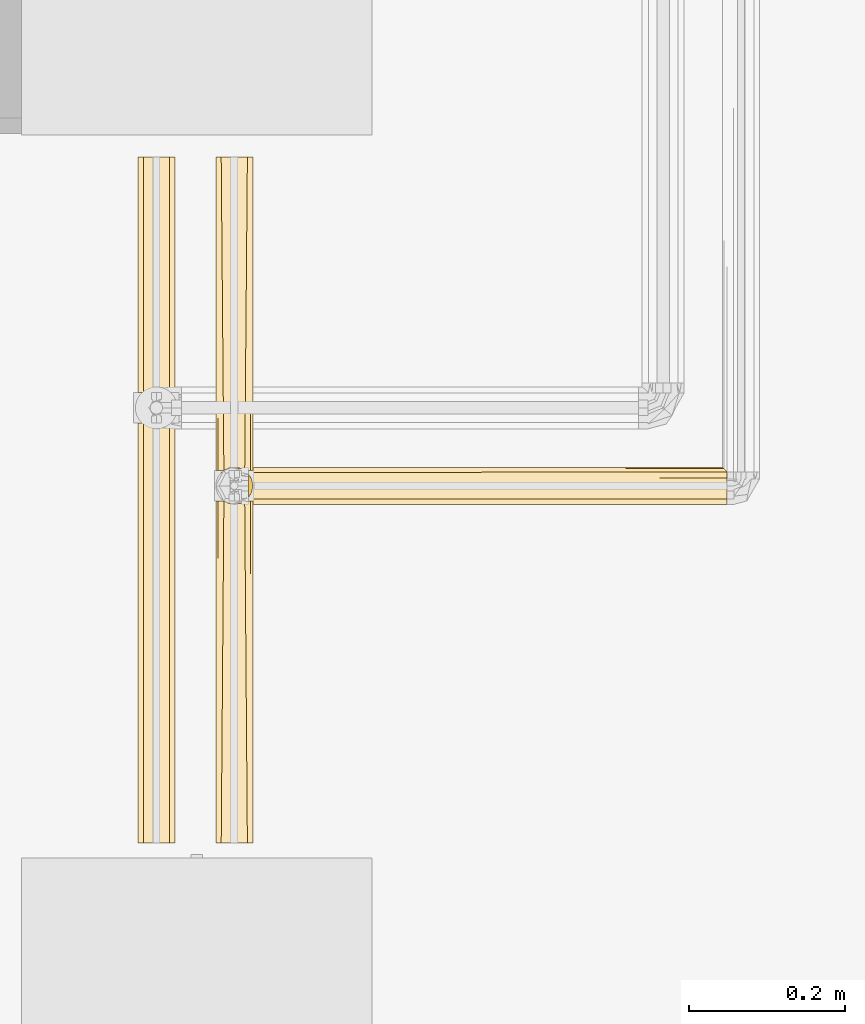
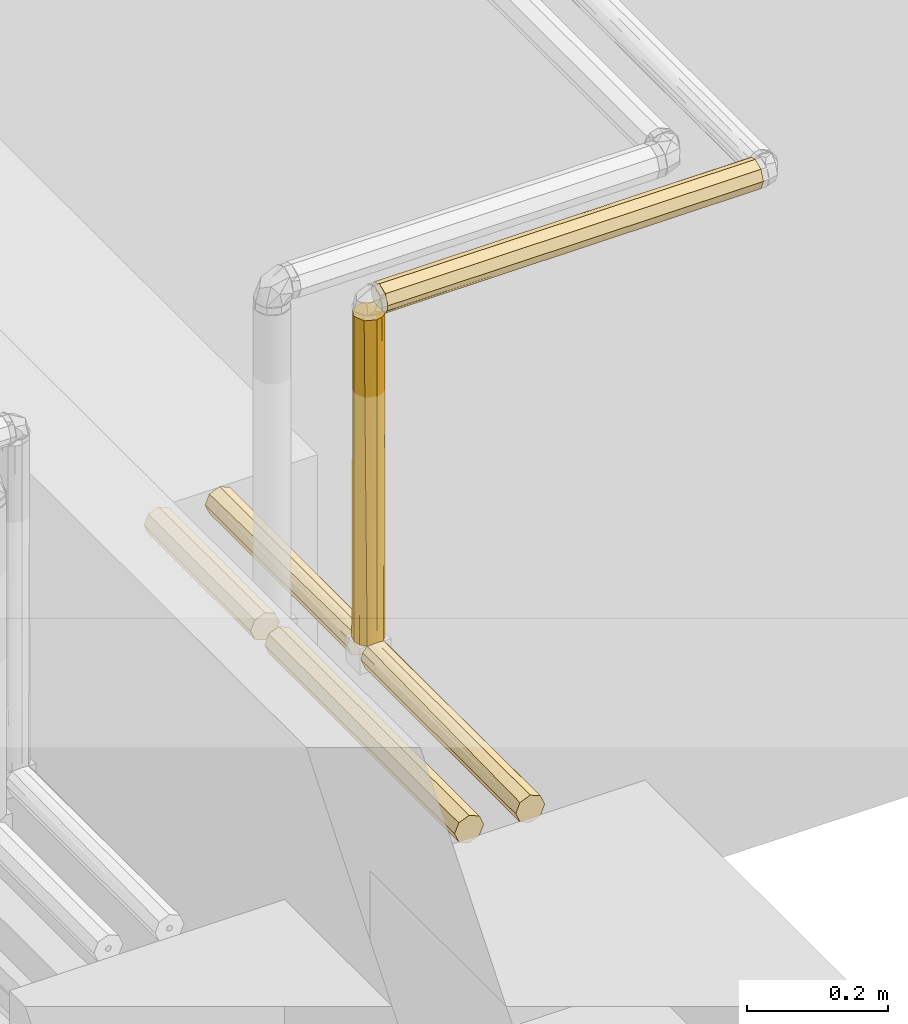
# One storey, part 166 of 652: 6 coverings.
"""IFC2X3 building model written with IfcOpenShell, lengths in millimetres."""

from ifc_helpers import new_model, entity, si_unit, converted_unit, direction, frame, origin, place, context, subcontext, project, spatial, faceted_brep, material, type_object, element, save


model = new_model("IFC2X3")

# Units and contexts
model_context = context("Model", 3, precision=0.01, world=frame((0.0, 0.0, 308426.39999999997)), true_north=direction((6.123233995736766e-17, 1.0)))
plan_context = context("Plan", 3, precision=0.01, world=frame((0.0, 0.0, 308426.39999999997)), true_north=direction((6.123233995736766e-17, 1.0)))
body_context = subcontext(model_context, "Body", "Model", "MODEL_VIEW")
ifc_project = project(units=[si_unit("LENGTHUNIT", "METRE", prefix="MILLI"), si_unit("AREAUNIT", "SQUARE_METRE"), si_unit("VOLUMEUNIT", "CUBIC_METRE"), converted_unit("PLANEANGLEUNIT", "DEGREE", entity("IfcPlaneAngleMeasure", 0.017453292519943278), si_unit("PLANEANGLEUNIT", "RADIAN"), dimensions=[0, 0, 0, 0, 0, 0, 0])], contexts=[model_context, plan_context])

# Site, building, storey
site_placement = place(None, origin())
site = spatial("IfcSite", under=ifc_project, at=site_placement, Name="Default", CompositionType="ELEMENT")
building_placement = place(site_placement, origin())
building = spatial("IfcBuilding", under=site, at=building_placement, CompositionType="ELEMENT")
storey_placement = place(building_placement, frame((0.0, 0.0, 1730.6999999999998)))
storey = spatial("IfcBuildingStorey", under=building, at=storey_placement, Name="EG_Produktion_FFB", CompositionType="ELEMENT", Elevation=1730.6999999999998)

# Coverings
ifc_material = material(Name="Dämmung - Armaflex-Schlauch")
covering_type = type_object("IfcCoveringType", Name="Rohrdämmung außen:Armaflex-Schlauch", PredefinedType="INSULATION")
covering_1_placement = place(storey_placement, frame((27454.60591691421, 55602.54806831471, 3274.6422277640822)))
element("IfcCovering", 1, at=covering_1_placement, inside=storey, type_object=covering_type, material=ifc_material, Name="Rohrdämmung außen:Armaflex-Schlauch", ObjectType="Rohrdämmung außen:Armaflex-Schlauch", PredefinedType="INSULATION", context=body_context, shape_type="Brep", body=[
    faceted_brep([(616.1221550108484, 43.30802223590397, 40.92841548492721), (616.1221550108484, 39.267438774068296, 43.95116498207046), (616.1221550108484, 35.22685531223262, 46.97391447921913), (616.1221550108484, 30.292313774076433, 48.04709335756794), (616.1221550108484, 25.35777223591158, 49.12027223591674), (616.1221550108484, 21.220946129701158, 47.406742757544), (616.1221550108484, 16.956459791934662, 45.640334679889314), (616.1221550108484, 12.755803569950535, 43.90036590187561), (616.1221550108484, 8.55514734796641, 42.1603971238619), (616.1221550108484, 6.815178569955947, 37.959740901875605), (616.1221550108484, 5.075209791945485, 33.75908467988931), (616.1221550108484, 3.335241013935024, 29.558428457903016), (616.1221550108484, 1.5952722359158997, 25.357772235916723), (616.1221550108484, 3.3352410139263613, 21.15711601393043), (616.1221550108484, 5.075209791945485, 16.956459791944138), (616.1221550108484, 6.815178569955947, 12.755803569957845), (616.1221550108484, 8.55514734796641, 8.555147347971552), (616.1221550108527, 12.755803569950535, 6.815178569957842), (616.1221550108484, 16.956459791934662, 5.075209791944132), (616.122155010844, 21.157116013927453, 3.335241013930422), (616.1221550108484, 25.35777223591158, 1.595272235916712), (616.1221550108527, 30.292313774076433, 2.668451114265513), (616.1221550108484, 35.22685531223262, 3.7416299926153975), (616.1221550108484, 39.267438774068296, 6.764379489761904), (616.1221550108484, 43.30802223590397, 9.787128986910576), (1.5952722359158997, 40.92841548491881, 7.407522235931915), (1.5952722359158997, 9.78712898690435, 7.407522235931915), (1.5952722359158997, 6.764379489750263, 11.448105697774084), (1.5952722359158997, 3.741629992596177, 15.488689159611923), (1.5952722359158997, 2.6684511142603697, 20.42323069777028), (1.5952722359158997, 1.5952722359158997, 25.357772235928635), (1.5952722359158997, 3.3088017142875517, 29.494598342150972), (1.5952722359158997, 5.022331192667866, 33.63142444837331), (1.5952722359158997, 6.7887392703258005, 37.89591078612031), (1.5952722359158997, 8.55514734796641, 42.16039712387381), (1.5952722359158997, 12.755803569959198, 43.900365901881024), (1.5952722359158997, 16.956459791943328, 45.64033467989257), (1.5952722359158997, 21.157116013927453, 47.38030345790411), (1.5952722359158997, 25.35777223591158, 49.120272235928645), (1.5952722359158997, 29.494598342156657, 47.40674275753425), (1.5952722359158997, 33.759084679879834, 45.64033467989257), (1.5952722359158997, 37.95974090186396, 43.90036590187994), (1.5952722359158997, 42.160397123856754, 42.16039712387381), (1.5952722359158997, 43.90036590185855, 37.95974090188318), (1.5952722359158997, 45.640334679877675, 33.759084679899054), (1.5952722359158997, 47.38030345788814, 29.558428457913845), (1.5952722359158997, 49.12027223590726, 25.357772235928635), (1.5952722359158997, 48.047093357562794, 20.42323069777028), (1.5952722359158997, 46.973914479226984, 15.488689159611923), (1.5952722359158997, 43.951164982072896, 11.448105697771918), (5.9070888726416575, 17.04773040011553, 3.0957055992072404), (3.7511805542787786, 13.417429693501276, 5.251613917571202), (6.6573055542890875, 21.202751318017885, 2.345488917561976), (7.407522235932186, 25.35777223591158, 1.595272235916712), (3.7511805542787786, 37.29811477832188, 5.251613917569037), (5.9070888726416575, 33.66781407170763, 3.0957055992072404), (6.595428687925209, 29.855493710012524, 2.407365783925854), (610.3099050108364, 49.12027223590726, 25.357772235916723), (611.0601216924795, 48.37005555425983, 21.202751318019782), (611.8103383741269, 47.61983887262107, 17.04773040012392), (613.9662466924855, 45.46393055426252, 13.417429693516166), (611.0601216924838, 48.37005555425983, 29.512793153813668), (611.8103383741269, 47.61983887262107, 33.66781407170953), (613.9662466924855, 45.46393055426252, 37.2981147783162)], [[[0, 1, 2, 3, 4, 5, 6, 7, 8, 9, 10, 11, 12, 13, 14, 15, 16, 17, 18, 19, 20, 21, 22, 23, 24]], [[25, 26, 27, 28, 29, 30, 31, 32, 33, 34, 35, 36, 37, 38, 39, 40, 41, 42, 43, 44, 45, 46, 47, 48, 49]], [[30, 13, 12]], [[18, 50, 19]], [[13, 30, 29]], [[29, 14, 13]], [[26, 16, 27]], [[17, 26, 51]], [[51, 50, 18]], [[52, 53, 20]], [[28, 27, 15]], [[27, 16, 15]], [[28, 15, 14]], [[19, 50, 52]], [[16, 26, 17]], [[29, 28, 14]], [[51, 18, 17]], [[52, 20, 19]], [[54, 25, 23]], [[55, 21, 56]], [[20, 53, 56]], [[21, 55, 22]], [[20, 56, 21]], [[54, 23, 22]], [[46, 57, 58]], [[47, 59, 48]], [[22, 55, 54]], [[60, 24, 49]], [[58, 59, 47]], [[48, 59, 60]], [[25, 24, 23]], [[48, 60, 49]], [[24, 25, 49]], [[46, 58, 47]], [[46, 61, 57]], [[3, 40, 39]], [[61, 46, 45]], [[62, 44, 63]], [[1, 42, 41]], [[42, 1, 0]], [[40, 3, 2]], [[0, 43, 42]], [[44, 62, 45]], [[39, 4, 3]], [[0, 63, 43]], [[41, 2, 1]], [[41, 40, 2]], [[45, 62, 61]], [[39, 38, 4]], [[63, 44, 43]], [[5, 4, 38, 37, 36, 35, 34, 8, 7, 6]], [[33, 32, 31, 30, 12, 11, 10, 9, 8, 34]], [[61, 62, 63, 0, 24, 60, 59, 58, 57]], [[26, 25, 54, 55, 56, 53, 52, 50, 51]]]),
])
covering_2_placement = place(storey_placement, frame((27412.89316691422, 55645.95981831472, 2725.357772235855)))
element("IfcCovering", 2, at=covering_2_placement, inside=storey, type_object=covering_type, material=ifc_material, Name="Rohrdämmung außen:Armaflex-Schlauch", ObjectType="Rohrdämmung außen:Armaflex-Schlauch", PredefinedType="INSULATION", context=body_context, shape_type="Brep", body=[
    faceted_brep([(8.55514734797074, 403.69508308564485, -42.1603971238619), (6.815178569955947, 403.69508308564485, -37.959740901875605), (5.0752097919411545, 403.69508308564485, -33.75908467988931), (3.3352410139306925, 403.6950830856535, -29.558428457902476), (1.5952722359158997, 403.69508308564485, -25.357772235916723), (3.3352410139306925, 403.69508308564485, -21.15711601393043), (5.0752097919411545, 403.69508308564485, -16.956459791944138), (6.8151785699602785, 403.6950830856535, -12.755803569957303), (8.55514734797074, 403.69508308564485, -8.555147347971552), (12.755803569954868, 403.69508308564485, -6.815178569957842), (16.956459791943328, 403.69508308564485, -5.075209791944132), (21.157116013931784, 403.69508308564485, -3.3352410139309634), (25.357772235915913, 403.69508308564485, -1.595272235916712), (29.55842845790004, 403.69508308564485, -3.335241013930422), (33.759084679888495, 403.69508308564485, -5.075209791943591), (37.95974090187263, 403.69508308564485, -6.8151785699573), (42.16039712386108, 403.69508308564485, -8.555147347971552), (43.900365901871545, 403.69508308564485, -12.755803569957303), (45.64033467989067, 403.69508308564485, -16.956459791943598), (47.38030345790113, 403.69508308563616, -21.15711601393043), (49.12027223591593, 403.69508308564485, -25.357772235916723), (47.38030345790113, 403.69508308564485, -29.558428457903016), (45.64033467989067, 403.69508308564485, -33.75908467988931), (43.900365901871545, 403.69508308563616, -37.959740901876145), (42.16039712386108, 403.69508308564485, -42.1603971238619), (37.95974090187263, 403.69508308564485, -43.90036590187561), (33.759084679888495, 403.69508308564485, -45.640334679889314), (29.55842845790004, 403.69508308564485, -47.380303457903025), (25.357772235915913, 403.69508308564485, -49.12027223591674), (22.196628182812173, 403.69508308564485, -47.81088349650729), (16.956459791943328, 403.69508308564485, -45.640334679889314), (12.755803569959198, 403.6950830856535, -43.90036590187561), (1.5952722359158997, 1.5952722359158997, -25.357772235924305), (4.214049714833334, 1.5952722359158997, -31.680060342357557), (6.384598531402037, 1.5952722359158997, -36.92022873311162), (8.55514734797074, 1.5952722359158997, -42.16039712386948), (12.755803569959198, 1.5952722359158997, -43.90036590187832), (16.95645979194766, 1.5952722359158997, -45.64033467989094), (21.157116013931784, 1.5952722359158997, -47.38030345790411), (25.357772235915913, 1.5952722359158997, -49.12027223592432), (31.680060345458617, 1.5952722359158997, -46.50149475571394), (36.92022873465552, 1.5952722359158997, -44.330945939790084), (42.16039712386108, 1.5952722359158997, -42.16039712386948), (43.900365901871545, 1.5952722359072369, -37.95974090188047), (45.64033467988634, 1.5952722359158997, -33.75908467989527), (47.38030345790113, 1.5952722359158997, -29.558428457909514), (49.12027223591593, 1.5952722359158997, -25.357772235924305), (47.73979299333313, 1.5952722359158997, -19.799182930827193), (46.359313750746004, 1.5952722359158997, -14.24059362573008), (42.539923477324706, 1.5952722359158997, -9.974557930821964), (38.72053320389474, 1.5952722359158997, -5.708522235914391), (11.995011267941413, 1.5952722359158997, -5.708522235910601), (8.175620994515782, 1.5952722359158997, -9.974557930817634), (4.3562307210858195, 1.5952722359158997, -14.240593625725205), (2.975751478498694, 1.5952722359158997, -19.799182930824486), (18.36702466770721, 4.65694151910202, -2.6468529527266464), (25.357772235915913, 5.70852223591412, -1.595272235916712), (32.34851980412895, 4.65694151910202, -2.646852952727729)], [[[0, 1, 2, 3, 4, 5, 6, 7, 8, 9, 10, 11, 12, 13, 14, 15, 16, 17, 18, 19, 20, 21, 22, 23, 24, 25, 26, 27, 28, 29, 30, 31]], [[32, 33, 34, 35, 36, 37, 38, 39, 40, 41, 42, 43, 44, 45, 46, 47, 48, 49, 50, 51, 52, 53, 54]], [[44, 43, 42, 24, 23, 22, 21, 20, 46, 45]], [[40, 39, 28, 27, 26, 25, 24, 42, 41]], [[37, 36, 35, 0, 31, 30, 29, 28, 39, 38]], [[0, 35, 34, 33, 32, 4, 3, 2, 1]], [[53, 6, 54]], [[11, 10, 55]], [[51, 10, 9, 8]], [[52, 7, 53]], [[7, 52, 8]], [[56, 11, 55]], [[32, 5, 4]], [[54, 6, 5]], [[7, 6, 53]], [[51, 55, 10]], [[11, 56, 12]], [[32, 54, 5]], [[52, 51, 8]], [[13, 12, 56]], [[16, 50, 49]], [[57, 13, 56]], [[19, 18, 47]], [[48, 17, 49]], [[19, 46, 20]], [[47, 18, 48]], [[50, 14, 57]], [[57, 14, 13]], [[17, 16, 49]], [[46, 19, 47]], [[50, 16, 15, 14]], [[48, 18, 17]], [[55, 51, 50, 57, 56]]]),
])
covering_3_placement = place(storey_placement, frame((27312.893166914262, 55747.5550905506, 2725.357772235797)))
element("IfcCovering", 3, at=covering_3_placement, inside=storey, type_object=covering_type, material=ifc_material, Name="Rohrdämmung außen:Armaflex-Schlauch", ObjectType="Rohrdämmung außen:Armaflex-Schlauch", PredefinedType="INSULATION", context=body_context, shape_type="Brep", body=[
    faceted_brep([(8.55514734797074, 302.09981084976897, -42.16039712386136), (6.815178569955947, 302.09981084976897, -37.95974090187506), (5.075209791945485, 302.09981084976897, -33.759084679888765), (3.3380901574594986, 302.09981084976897, -29.565306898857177), (1.5952722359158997, 302.09981084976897, -25.357772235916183), (3.3380901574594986, 302.09981084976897, -21.150237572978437), (5.075209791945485, 302.09981084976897, -16.956459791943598), (6.815178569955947, 302.09981084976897, -12.755803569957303), (8.55514734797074, 302.09981084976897, -8.55514734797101), (12.755803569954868, 302.09981084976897, -6.8151785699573), (16.956459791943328, 302.09981084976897, -5.075209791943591), (21.150237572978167, 302.09981084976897, -3.3380901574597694), (25.357772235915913, 302.09981084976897, -1.5952722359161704), (29.56530689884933, 302.09981084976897, -3.3380901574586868), (33.759084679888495, 302.09981084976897, -5.075209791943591), (37.95974090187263, 302.09981084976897, -6.8151785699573), (42.16039712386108, 302.09981084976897, -8.55514734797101), (43.900365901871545, 302.09981084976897, -12.755803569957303), (45.64033467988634, 302.09981084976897, -16.956459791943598), (47.377454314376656, 302.09981084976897, -21.1502375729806), (49.12027223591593, 302.09981084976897, -25.357772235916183), (47.38030345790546, 302.09981084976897, -29.558428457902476), (45.64033467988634, 302.09981084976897, -33.759084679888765), (43.900365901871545, 302.09981084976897, -37.95974090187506), (42.16039712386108, 302.09981084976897, -42.16039712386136), (37.959740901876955, 302.09981084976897, -43.90036590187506), (33.759084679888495, 302.09981084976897, -45.640334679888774), (29.56530689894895, 302.09981084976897, -47.37745431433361), (25.357772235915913, 302.09981084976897, -49.1202722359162), (21.15023757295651, 302.09981084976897, -47.37745431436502), (16.956459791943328, 302.09981084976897, -45.640334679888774), (12.755803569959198, 302.09981084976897, -43.90036590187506), (42.16039712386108, 0.0, -8.555147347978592), (37.959740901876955, 0.0, -6.815178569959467), (33.759084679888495, 0.0, -5.075209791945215), (29.55842845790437, 0.0, -3.3352410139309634), (25.357772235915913, 0.0, -1.5952722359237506), (21.150237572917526, 0.0, -3.3380901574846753), (16.94270290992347, 0.0, -5.080908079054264), (12.748925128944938, 0.0, -6.818027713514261), (8.55514734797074, 0.0, -8.555147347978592), (6.815178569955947, 0.0, -12.755803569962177), (5.0752097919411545, 0.0, -16.956459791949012), (3.3352410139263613, 0.0, -21.15711601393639), (1.5952722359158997, 0.0, -25.35777223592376), (3.3380901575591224, 0.0, -29.565306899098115), (5.080908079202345, 0.0, -33.77284156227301), (6.818027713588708, 0.0, -37.96661934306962), (8.55514734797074, 0.0, -42.16039712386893), (12.755803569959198, 0.0, -43.90036590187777), (16.956459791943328, 0.0, -45.64033467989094), (21.157116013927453, 0.0, -47.380303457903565), (25.357772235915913, 0.0, -49.12027223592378), (29.565306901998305, 0.0, -47.37745431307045), (33.772841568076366, 0.0, -45.6346363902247), (37.966619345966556, 0.0, -43.897516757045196), (42.16039712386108, 0.0, -42.16039712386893), (43.90036590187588, 0.0, -37.95974090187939), (45.64033467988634, 0.0, -33.75908467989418), (47.3803034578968, 0.0, -29.558428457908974), (49.12027223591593, 0.0, -25.35777223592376), (47.377454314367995, 0.0, -21.150237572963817), (45.6346363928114, 0.0, -16.942702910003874), (43.897516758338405, 0.0, -12.748925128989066)], [[[0, 1, 2, 3, 4, 5, 6, 7, 8, 9, 10, 11, 12, 13, 14, 15, 16, 17, 18, 19, 20, 21, 22, 23, 24, 25, 26, 27, 28, 29, 30, 31]], [[32, 33, 34, 35, 36, 37, 38, 39, 40, 41, 42, 43, 44, 45, 46, 47, 48, 49, 50, 51, 52, 53, 54, 55, 56, 57, 58, 59, 60, 61, 62, 63]], [[58, 57, 56, 24, 23, 22, 21, 20, 60, 59]], [[24, 56, 55, 54, 53, 52, 28, 27, 26, 25]], [[28, 52, 51, 50, 49, 48, 0, 31, 30, 29]], [[0, 48, 47, 46, 45, 44, 4, 3, 2, 1]], [[4, 44, 43, 42, 41, 40, 8, 7, 6, 5]], [[8, 40, 39, 38, 37, 36, 12, 11, 10, 9]], [[12, 36, 35, 34, 33, 32, 16, 15, 14, 13]], [[16, 32, 63, 62, 61, 60, 20, 19, 18, 17]]]),
])
covering_4_placement = place(storey_placement, frame((27312.893166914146, 55169.654901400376, 2725.357772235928)))
element("IfcCovering", 4, at=covering_4_placement, inside=storey, type_object=covering_type, material=ifc_material, Name="Rohrdämmung außen:Armaflex-Schlauch", ObjectType="Rohrdämmung außen:Armaflex-Schlauch", PredefinedType="INSULATION", context=body_context, shape_type="Brep", body=[
    faceted_brep([(8.55514734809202, 538.6016891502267, -42.16039712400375), (6.8151785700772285, 538.6016891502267, -37.95974090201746), (5.075209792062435, 538.6016891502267, -33.759084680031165), (3.3352410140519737, 538.6016891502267, -29.558428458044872), (1.595272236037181, 538.6016891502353, -25.35777223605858), (3.550353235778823, 538.6016891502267, -20.63778917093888), (5.075209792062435, 538.6016891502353, -16.956459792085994), (6.8151785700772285, 538.6016891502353, -12.755803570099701), (8.55514734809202, 538.6016891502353, -8.555147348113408), (12.755803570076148, 538.6016891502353, -6.815178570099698), (16.956459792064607, 538.6016891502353, -5.075209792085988), (21.157116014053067, 538.6016891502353, -3.3352410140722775), (25.357772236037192, 538.6016891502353, -1.5952722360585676), (30.077755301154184, 538.6016891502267, -3.550353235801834), (33.75908468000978, 538.6016891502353, -5.075209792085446), (37.959740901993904, 538.6016891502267, -6.815178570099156), (42.160397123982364, 538.6016891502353, -8.555147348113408), (43.900365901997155, 538.6016891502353, -12.75580357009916), (45.640334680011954, 538.6016891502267, -16.956459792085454), (47.38030345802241, 538.6016891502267, -21.157116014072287), (49.1202722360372, 538.6016891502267, -25.35777223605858), (47.38030345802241, 538.6016891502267, -29.558428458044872), (45.640334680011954, 538.6016891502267, -33.759084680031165), (43.90036590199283, 538.6016891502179, -37.959740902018), (42.160397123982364, 538.6016891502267, -42.16039712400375), (37.95974090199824, 538.6016891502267, -43.90036590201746), (33.75908468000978, 538.6016891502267, -45.640334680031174), (29.55842845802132, 538.6016891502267, -47.380303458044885), (25.357772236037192, 538.6016891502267, -49.12027223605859), (20.637789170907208, 538.6016891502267, -47.165191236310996), (16.956459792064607, 538.6016891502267, -45.640334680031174), (12.755803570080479, 538.6016891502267, -43.90036590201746), (42.16039712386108, 0.0, -8.55514734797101), (37.959740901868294, 0.0, -6.815178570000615), (33.75908467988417, 0.0, -5.075209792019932), (29.55842845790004, 0.0, -3.33524101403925), (25.357772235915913, 0.0, -1.5952722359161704), (20.6377891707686, 0.0, -3.5503532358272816), (15.917806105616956, 0.0, -5.505434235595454), (8.55514734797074, 0.0, -8.55514734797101), (6.815178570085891, 0.0, -12.755803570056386), (5.075209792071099, 0.0, -16.956459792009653), (3.3352410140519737, 0.0, -21.157116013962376), (1.5952722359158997, 0.0, -25.357772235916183), (3.550353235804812, 0.0, -30.07775530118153), (5.505434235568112, 0.0, -34.79773836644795), (8.55514734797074, 0.0, -42.16039712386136), (12.755803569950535, 0.0, -43.90036590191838), (16.956459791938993, 0.0, -45.64033467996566), (21.157116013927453, 0.0, -47.38030345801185), (25.357772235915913, 0.0, -49.1202722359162), (30.077755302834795, 0.0, -47.16519123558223), (34.79773836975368, 0.0, -45.21011023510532), (42.16039712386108, 0.0, -42.16039712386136), (43.90036590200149, 0.0, -37.95974090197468), (45.640334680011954, 0.0, -33.759084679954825), (47.380303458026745, 0.0, -29.558428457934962), (49.12027223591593, 0.0, -25.357772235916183), (47.16519123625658, 0.0, -20.63778917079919), (45.21011023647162, 0.0, -15.9178061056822)], [[[0, 1, 2, 3, 4, 5, 6, 7, 8, 9, 10, 11, 12, 13, 14, 15, 16, 17, 18, 19, 20, 21, 22, 23, 24, 25, 26, 27, 28, 29, 30, 31]], [[32, 33, 34, 35, 36, 37, 38, 39, 40, 41, 42, 43, 44, 45, 46, 47, 48, 49, 50, 51, 52, 53, 54, 55, 56, 57, 58, 59]], [[55, 54, 53, 24, 23, 22, 21, 20, 57, 56]], [[53, 52, 51, 50, 28, 27, 26, 25, 24]], [[43, 4, 3, 2, 1, 0, 46, 45, 44]], [[31, 30, 29, 28, 50, 49, 48, 47, 46, 0]], [[36, 12, 11, 10, 9, 8, 39, 38, 37]], [[7, 6, 5, 4, 43, 42, 41, 40, 39, 8]], [[57, 20, 19, 18, 17, 16, 32, 59, 58]], [[15, 14, 13, 12, 36, 35, 34, 33, 32, 16]]]),
])
covering_5_placement = place(storey_placement, frame((27412.893166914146, 55169.65490140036, 2725.357772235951)))
element("IfcCovering", 5, at=covering_5_placement, inside=storey, type_object=covering_type, material=ifc_material, Name="Rohrdämmung außen:Armaflex-Schlauch", ObjectType="Rohrdämmung außen:Armaflex-Schlauch", PredefinedType="INSULATION", context=body_context, shape_type="Brep", body=[
    faceted_brep([(1.5952722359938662, 438.6016891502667, -25.357772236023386), (2.975751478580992, 438.6016891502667, -19.79918293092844), (4.356230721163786, 438.6016891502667, -14.240593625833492), (8.175620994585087, 438.6016891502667, -9.97455793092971), (11.995011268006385, 438.6016891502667, -5.7085222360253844), (38.72053320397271, 438.6016891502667, -5.708522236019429), (42.53992347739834, 438.6016891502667, -9.974557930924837), (46.35931375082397, 438.601689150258, -14.240593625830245), (47.739792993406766, 438.601689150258, -19.799182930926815), (49.12027223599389, 438.601689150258, -25.357772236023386), (47.38030345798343, 438.601689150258, -29.55842845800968), (45.640334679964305, 438.601689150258, -33.75908467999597), (43.90036590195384, 438.6016891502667, -37.959740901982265), (42.16039712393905, 438.601689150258, -42.16039712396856), (37.95974090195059, 438.60168915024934, -43.90036590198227), (33.75908467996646, 438.601689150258, -45.64033467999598), (29.558428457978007, 438.601689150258, -47.38030345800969), (25.357772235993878, 438.601689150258, -49.120272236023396), (19.561645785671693, 438.601689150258, -46.71943805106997), (16.956459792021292, 438.601689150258, -45.64033467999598), (12.755803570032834, 438.60168915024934, -43.90036590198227), (8.555147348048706, 438.601689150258, -42.16039712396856), (6.815178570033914, 438.6016891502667, -37.959740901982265), (5.075209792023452, 438.6016891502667, -33.75908467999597), (3.335241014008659, 438.601689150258, -29.55842845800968), (42.16039712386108, 0.0, -8.55514734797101), (37.95974090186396, 0.0, -6.81517856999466), (33.759084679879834, 0.0, -5.075209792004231), (29.55842845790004, 0.0, -3.335241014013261), (25.357772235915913, 0.0, -1.5952722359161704), (21.15711601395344, 0.0, -3.3352410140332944), (16.956459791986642, 0.0, -5.075209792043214), (12.75580357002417, 0.0, -6.815178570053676), (8.55514734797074, 0.0, -8.55514734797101), (6.815178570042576, 0.0, -12.755803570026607), (5.075209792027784, 0.0, -16.95645979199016), (3.3352410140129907, 0.0, -21.15711601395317), (1.5952722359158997, 0.0, -25.357772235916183), (3.996106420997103, 0.0, -31.153898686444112), (6.3969406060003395, 0.0, -36.950025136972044), (8.55514734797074, 0.0, -42.16039712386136), (12.755803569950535, 0.0, -43.90036590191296), (16.956459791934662, 0.0, -45.64033467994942), (21.157116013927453, 0.0, -47.38030345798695), (25.357772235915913, 0.0, -49.1202722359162), (31.153898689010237, 0.0, -46.719438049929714), (36.95002514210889, 0.0, -44.31860386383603), (42.16039712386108, 0.0, -42.16039712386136), (43.90036590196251, 0.0, -37.959740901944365), (45.640334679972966, 0.0, -33.759084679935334), (47.38030345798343, 0.0, -29.558428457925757), (49.12027223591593, 0.0, -25.357772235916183), (46.71943805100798, 0.0, -19.561645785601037), (45.64033467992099, 0.0, -16.956459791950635), (43.90036590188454, 0.0, -12.755803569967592), (18.367024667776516, 435.54001986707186, -2.646852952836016), (25.357772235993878, 434.48843915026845, -1.5952722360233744), (32.34851980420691, 435.54001986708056, -2.6468529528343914)], [[[0, 1, 2, 3, 4, 5, 6, 7, 8, 9, 10, 11, 12, 13, 14, 15, 16, 17, 18, 19, 20, 21, 22, 23, 24]], [[25, 26, 27, 28, 29, 30, 31, 32, 33, 34, 35, 36, 37, 38, 39, 40, 41, 42, 43, 44, 45, 46, 47, 48, 49, 50, 51, 52, 53, 54]], [[49, 48, 47, 13, 12, 11, 10, 9, 51, 50]], [[47, 46, 45, 44, 17, 16, 15, 14, 13]], [[23, 22, 21, 40, 39, 38, 37, 0, 24]], [[20, 19, 18, 17, 44, 43, 42, 41, 40, 21]], [[34, 33, 3]], [[4, 33, 32, 31]], [[55, 31, 30]], [[35, 2, 1]], [[33, 4, 3]], [[37, 36, 0]], [[55, 30, 56]], [[1, 36, 35]], [[2, 34, 3]], [[0, 36, 1]], [[29, 56, 30]], [[4, 31, 55]], [[2, 35, 34]], [[5, 27, 26, 25]], [[6, 54, 7]], [[56, 28, 57]], [[57, 27, 5]], [[54, 6, 25]], [[53, 8, 7]], [[54, 53, 7]], [[28, 27, 57]], [[51, 8, 53, 52]], [[51, 9, 8]], [[28, 56, 29]], [[6, 5, 25]], [[4, 55, 56, 57, 5]]]),
])
covering_6_placement = place(storey_placement, frame((27412.893166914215, 55602.54806831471, 2718.053977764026)))
element("IfcCovering", 6, at=covering_6_placement, inside=storey, type_object=covering_type, material=ifc_material, Name="Rohrdämmung außen:Armaflex-Schlauch", ObjectType="Rohrdämmung außen:Armaflex-Schlauch", PredefinedType="INSULATION", context=body_context, shape_type="Brep", body=[
    faceted_brep([(2.9757514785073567, 19.79918293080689, 1.595272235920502), (1.5952722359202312, 25.35777223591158, 1.595272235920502), (2.9757514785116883, 30.916361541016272, 1.595272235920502), (4.356230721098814, 36.47495084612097, 1.595272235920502), (8.175620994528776, 40.74098654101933, 1.595272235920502), (11.995011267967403, 45.007022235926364, 1.595272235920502), (38.72053320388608, 45.007022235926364, 1.595272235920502), (42.539923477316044, 40.74098654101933, 1.5952722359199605), (46.359313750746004, 36.4749508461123, 1.595272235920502), (47.73979299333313, 30.916361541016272, 1.595272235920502), (49.120272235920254, 25.35777223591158, 1.595272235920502), (47.7397929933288, 19.79918293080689, 1.595272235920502), (46.35931375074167, 14.240593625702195, 1.595272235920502), (42.53992347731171, 9.974557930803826, 1.595272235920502), (38.72053320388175, 5.708522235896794, 1.595272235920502), (11.995011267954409, 5.708522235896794, 1.595272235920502), (8.175620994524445, 9.974557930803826, 1.5952722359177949), (4.356230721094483, 14.240593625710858, 1.595272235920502), (25.357772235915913, 1.5952722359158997, 563.99577223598), (30.292313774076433, 2.6684511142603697, 563.99577223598), (35.22685531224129, 3.7416299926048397, 563.99577223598), (39.26743877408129, 6.764379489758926, 563.99577223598), (43.30802223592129, 9.787128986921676, 563.99577223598), (43.30802223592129, 40.928415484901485, 563.99577223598), (39.26743877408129, 43.951164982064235, 563.995772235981), (35.22685531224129, 46.97391447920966, 563.99577223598), (30.292313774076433, 48.047093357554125, 563.99577223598), (25.357772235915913, 49.12027223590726, 563.99577223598), (21.157116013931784, 47.3803034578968, 563.99577223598), (16.956459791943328, 45.640334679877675, 563.99577223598), (12.755803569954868, 43.90036590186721, 563.99577223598), (8.55514734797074, 42.160397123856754, 563.99577223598), (6.8151785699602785, 37.95974090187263, 563.99577223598), (5.075209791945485, 33.759084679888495, 563.99577223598), (3.3352410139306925, 29.55842845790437, 563.99577223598), (1.5952722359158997, 25.35777223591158, 563.99577223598), (3.4676210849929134, 20.837522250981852, 563.99577223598), (5.075209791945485, 16.956459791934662, 563.9957722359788), (6.815178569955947, 12.755803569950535, 563.99577223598), (8.55514734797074, 8.55514734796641, 563.99577223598), (12.755803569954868, 6.815178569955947, 563.99577223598), (16.956459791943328, 5.075209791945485, 563.99577223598), (21.157116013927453, 3.3352410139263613, 563.99577223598), (25.357772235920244, 49.12027223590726, 5.708522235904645), (32.348519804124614, 48.06869151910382, 4.656941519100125), (47.619838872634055, 33.66781407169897, 559.6839555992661), (45.46393055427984, 37.29811477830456, 561.8398639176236), (48.37005555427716, 29.512793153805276, 558.933738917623), (49.120272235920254, 25.35777223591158, 558.1835222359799), (47.619838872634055, 17.04773040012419, 559.6839555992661), (45.46393055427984, 13.417429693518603, 561.8398639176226), (48.232909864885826, 20.443179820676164, 559.0708846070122), (25.357772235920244, 1.5952722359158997, 5.708522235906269), (32.34851980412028, 2.6468529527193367, 4.656941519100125), (18.367024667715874, 2.6468529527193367, 4.656941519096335), (18.367024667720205, 48.06869151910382, 4.656941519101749)], [[[0, 1, 2, 3, 4, 5, 6, 7, 8, 9, 10, 11, 12, 13, 14, 15, 16, 17]], [[18, 19, 20, 21, 22, 23, 24, 25, 26, 27, 28, 29, 30, 31, 32, 33, 34, 35, 36, 37, 38, 39, 40, 41, 42]], [[43, 26, 44]], [[26, 43, 27]], [[6, 25, 24]], [[6, 44, 25]], [[24, 23, 7]], [[6, 24, 7]], [[45, 8, 46]], [[26, 25, 44]], [[9, 45, 47]], [[46, 7, 23]], [[47, 48, 10]], [[47, 10, 9]], [[8, 7, 46]], [[9, 8, 45]], [[12, 49, 50]], [[21, 13, 22]], [[10, 48, 51]], [[11, 49, 12]], [[10, 51, 11]], [[49, 11, 51]], [[52, 19, 18]], [[12, 50, 13]], [[13, 21, 14]], [[53, 14, 20]], [[19, 52, 53]], [[50, 22, 13]], [[21, 20, 14]], [[53, 20, 19]], [[15, 41, 40, 39]], [[16, 38, 17]], [[52, 42, 54]], [[54, 41, 15]], [[38, 16, 39]], [[37, 0, 17]], [[38, 37, 17]], [[42, 41, 54]], [[36, 1, 0]], [[0, 37, 36]], [[36, 35, 1]], [[42, 52, 18]], [[16, 15, 39]], [[32, 31, 4]], [[5, 31, 30, 29]], [[55, 29, 28]], [[33, 3, 2]], [[31, 5, 4]], [[35, 34, 1]], [[55, 28, 43]], [[2, 34, 33]], [[3, 32, 4]], [[1, 34, 2]], [[27, 43, 28]], [[5, 29, 55]], [[3, 33, 32]], [[54, 15, 14, 53, 52]], [[5, 55, 43, 44, 6]], [[23, 22, 50, 49, 51, 48, 47, 45, 46]]]),
])

save(model, "model.ifc")
